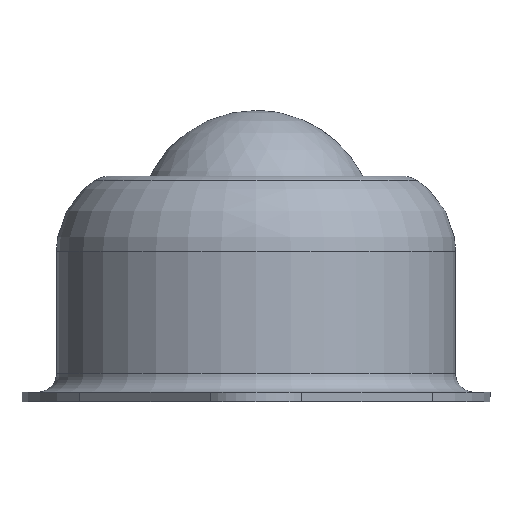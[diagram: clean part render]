
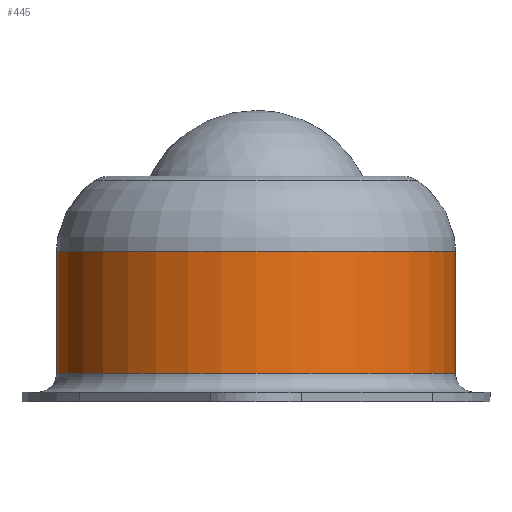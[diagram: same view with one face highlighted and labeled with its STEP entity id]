
A CAD part, front view. The second image highlights one B-rep face of the part: STEP entity #445.
In plain terms, the highlighted cylindrical face has radius 21.25 mm (diameter 42.5 mm), a full revolution.
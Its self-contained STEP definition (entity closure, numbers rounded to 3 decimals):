
#87=FACE_BOUND('',#172,.T.);
#119=FACE_OUTER_BOUND('',#171,.T.);
#171=EDGE_LOOP('',(#392));
#172=EDGE_LOOP('',(#393));
#212=CIRCLE('',#504,21.25);
#213=CIRCLE('',#506,21.25);
#253=VERTEX_POINT('',#769);
#254=VERTEX_POINT('',#772);
#302=EDGE_CURVE('',#253,#253,#212,.T.);
#303=EDGE_CURVE('',#254,#254,#213,.T.);
#392=ORIENTED_EDGE('',*,*,#303,.F.);
#393=ORIENTED_EDGE('',*,*,#302,.T.);
#418=CYLINDRICAL_SURFACE('',#505,21.25);
#445=ADVANCED_FACE('',(#119,#87),#418,.T.);
#504=AXIS2_PLACEMENT_3D('',#770,#636,#637);
#505=AXIS2_PLACEMENT_3D('',#771,#638,#639);
#506=AXIS2_PLACEMENT_3D('',#773,#640,#641);
#636=DIRECTION('center_axis',(0.,0.,1.));
#637=DIRECTION('ref_axis',(0.,-1.,0.));
#638=DIRECTION('center_axis',(0.,0.,1.));
#639=DIRECTION('ref_axis',(0.,-1.,0.));
#640=DIRECTION('center_axis',(0.,0.,1.));
#641=DIRECTION('ref_axis',(0.,-1.,0.));
#769=CARTESIAN_POINT('',(0.,-21.25,3.));
#770=CARTESIAN_POINT('Origin',(0.,0.,3.));
#771=CARTESIAN_POINT('Origin',(0.,0.,9.5));
#772=CARTESIAN_POINT('',(0.,-21.25,16.));
#773=CARTESIAN_POINT('Origin',(0.,0.,16.));
